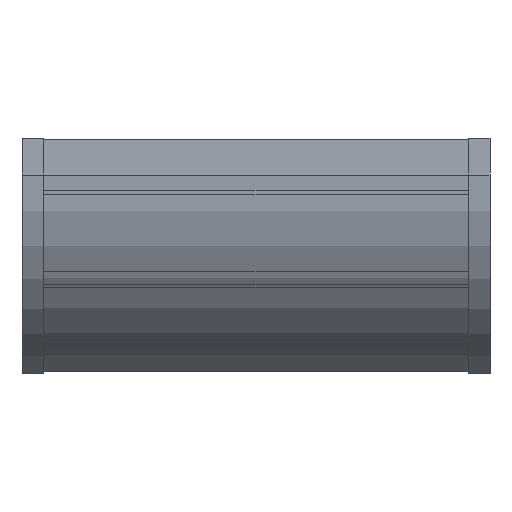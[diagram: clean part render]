
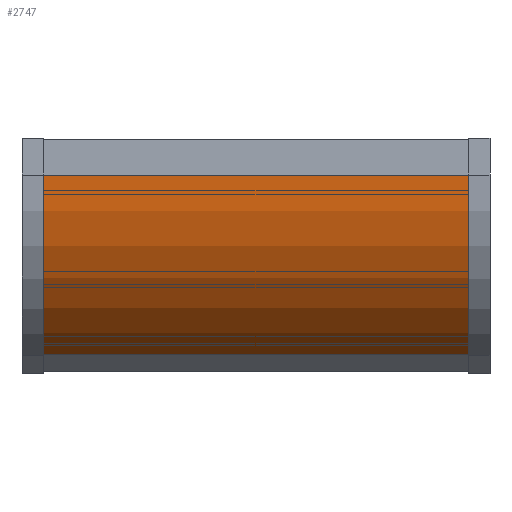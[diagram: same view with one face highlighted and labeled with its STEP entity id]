
A CAD part, front view. The second image highlights one B-rep face of the part: STEP entity #2747.
In plain terms, the highlighted cylindrical face has radius 431.165 mm (diameter 862.33 mm), a partial arc.
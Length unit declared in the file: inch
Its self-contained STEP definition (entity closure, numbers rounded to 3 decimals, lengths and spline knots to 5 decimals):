
#2453=CARTESIAN_POINT('',(17.9375,16.935,0.));
#2454=DIRECTION('',(-1.,0.,0.));
#2455=DIRECTION('',(0.,-1.,0.));
#2456=AXIS2_PLACEMENT_3D('',#2453,#2454,#2455);
#2479=CARTESIAN_POINT('',(-17.9375,16.935,0.));
#2480=DIRECTION('',(-1.,0.,0.));
#2481=DIRECTION('',(0.,-1.,0.));
#2482=AXIS2_PLACEMENT_3D('',#2479,#2480,#2481);
#2512=DIRECTION('',(-1.,0.,0.));
#2513=VECTOR('',#2512,35.875);
#2514=CARTESIAN_POINT('',(17.9375,8.4475,14.70078));
#2515=LINE('',#2514,#2513);
#2516=DIRECTION('',(-1.,0.,0.));
#2517=VECTOR('',#2516,35.875);
#2518=CARTESIAN_POINT('',(17.9375,-0.04,0.));
#2519=LINE('',#2518,#2517);
#2552=CARTESIAN_POINT('',(17.9375,-0.04,0.));
#2554=VERTEX_POINT('',#2552);
#2558=CARTESIAN_POINT('',(-17.9375,-0.04,0.));
#2559=VERTEX_POINT('',#2558);
#2568=CARTESIAN_POINT('',(17.9375,8.4475,14.70078));
#2569=VERTEX_POINT('',#2568);
#2572=CARTESIAN_POINT('',(-17.9375,8.4475,14.70078));
#2573=VERTEX_POINT('',#2572);
#2735=CARTESIAN_POINT('',(17.9375,16.935,0.));
#2736=DIRECTION('',(-1.,0.,0.));
#2737=DIRECTION('',(0.,0.,1.));
#2738=AXIS2_PLACEMENT_3D('',#2735,#2736,#2737);
#2739=CYLINDRICAL_SURFACE('',#2738,16.975);
#2740=ORIENTED_EDGE('',*,*,#2615,.F.);
#2742=ORIENTED_EDGE('',*,*,#2741,.T.);
#2743=ORIENTED_EDGE('',*,*,#2672,.T.);
#2744=ORIENTED_EDGE('',*,*,#2727,.F.);
#2745=EDGE_LOOP('',(#2740,#2742,#2743,#2744));
#2746=FACE_OUTER_BOUND('',#2745,.F.);
#2747=ADVANCED_FACE('',(#2746),#2739,.T.);
#2457=CIRCLE('',#2456,16.975);
#2483=CIRCLE('',#2482,16.975);
#2615=EDGE_CURVE('',#2554,#2569,#2457,.T.);
#2672=EDGE_CURVE('',#2559,#2573,#2483,.T.);
#2727=EDGE_CURVE('',#2569,#2573,#2515,.T.);
#2741=EDGE_CURVE('',#2554,#2559,#2519,.T.);
